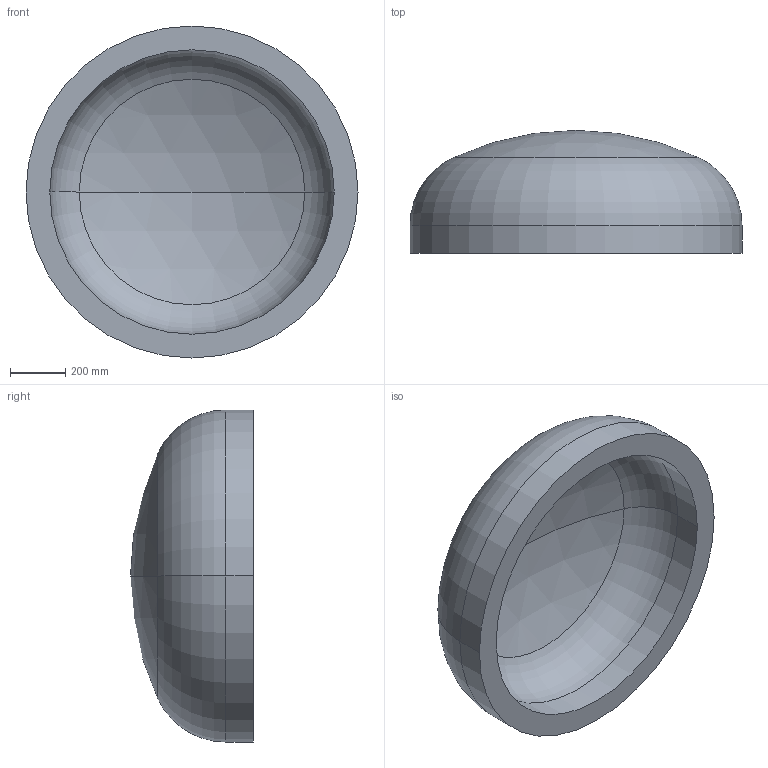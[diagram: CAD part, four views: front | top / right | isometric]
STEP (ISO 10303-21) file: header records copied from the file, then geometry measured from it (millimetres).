
FILE_DESCRIPTION (( 'STEP AP203' ), '1' );
FILE_NAME ('DIN 28013 Korbbogenform_-_Boden DIN 28013 - 1200 x 100 - I - s=86.step', '2016-07-01T09:35:54', ( '' ), ( '' ), 'SwSTEP 2.0', 'SolidWorks 2013', '' );
FILE_SCHEMA (( 'CONFIG_CONTROL_DESIGN' ));
Length unit declared in the file: millimetre
Products named in the file (1): DIN 28013 Korbbogenform_-_Boden DIN 28013 - 1200 x 100 - I - s=86
Bounding box: 1200 x 444.3 x 1200 mm (x, y, z)
Volume: 153175670.9 mm3; surface area: 3878691.5 mm2
Topology: 1 solids, 1 shells, 13 faces, 24 edges, 14 vertices
Faces by surface type: torus 4, cylinder 4, sphere 4, plane 1
Entity records: 407 total; most frequent: DIRECTION 72, CARTESIAN_POINT 52, ORIENTED_EDGE 48, AXIS2_PLACEMENT_3D 34, EDGE_CURVE 24, CIRCLE 20, VERTEX_POINT 14, EDGE_LOOP 14
